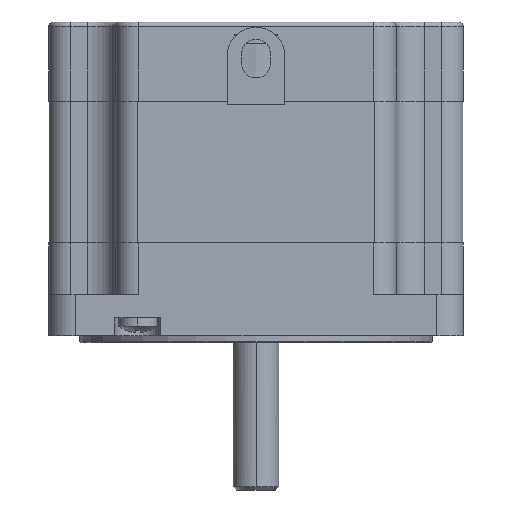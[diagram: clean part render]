
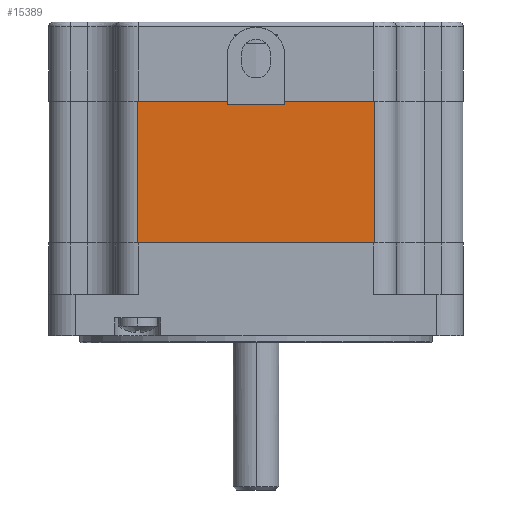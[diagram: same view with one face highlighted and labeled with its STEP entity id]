
A CAD part, left-side view. The second image highlights one B-rep face of the part: STEP entity #15389.
In plain terms, the highlighted planar face has unit normal (-1, 0, 0).
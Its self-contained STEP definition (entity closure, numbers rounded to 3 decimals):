
#2211 = EDGE_LOOP ( 'NONE', ( #13946, #36513, #8689, #46121 ) ) ;
#8689 = ORIENTED_EDGE ( 'NONE', *, *, #43303, .F. ) ;
#10192 = CARTESIAN_POINT ( 'NONE',  ( -42.87, -24.5, 0. ) ) ;
#12590 = VECTOR ( 'NONE', #21265, 1000. ) ;
#13946 = ORIENTED_EDGE ( 'NONE', *, *, #45383, .T. ) ;
#14179 = CARTESIAN_POINT ( 'NONE',  ( -42.87, -24.5, 29.4 ) ) ;
#15389 = ADVANCED_FACE ( 'NONE', ( #27893 ), #38272, .F. ) ;
#20032 = DIRECTION ( 'NONE',  ( 0., 0., -1. ) ) ;
#20315 = AXIS2_PLACEMENT_3D ( 'NONE', #33277, #28274, #23237 ) ;
#21265 = DIRECTION ( 'NONE',  ( 0., -1., 0. ) ) ;
#23237 = DIRECTION ( 'NONE',  ( 0., 0., -1. ) ) ;
#25028 = CARTESIAN_POINT ( 'NONE',  ( -42.87, 24.5, 29.4 ) ) ;
#26254 = CARTESIAN_POINT ( 'NONE',  ( -42.87, -24.5, 29.4 ) ) ;
#26407 = DIRECTION ( 'NONE',  ( 0., -1., 0. ) ) ;
#27893 = FACE_OUTER_BOUND ( 'NONE', #2211, .T. ) ;
#28274 = DIRECTION ( 'NONE',  ( 1., 0., 0. ) ) ;
#28714 = CARTESIAN_POINT ( 'NONE',  ( -42.87, 24.5, 29.4 ) ) ;
#29210 = VECTOR ( 'NONE', #20032, 1000. ) ;
#30048 = LINE ( 'NONE', #25028, #29210 ) ;
#30400 = CARTESIAN_POINT ( 'NONE',  ( -42.87, 24.5, 0. ) ) ;
#31114 = VECTOR ( 'NONE', #26407, 1000. ) ;
#31452 = CARTESIAN_POINT ( 'NONE',  ( -42.87, -24.5, 0. ) ) ;
#32140 = EDGE_CURVE ( 'NONE', #37849, #40791, #46311, .T. ) ;
#33113 = VERTEX_POINT ( 'NONE', #28714 ) ;
#33277 = CARTESIAN_POINT ( 'NONE',  ( -42.87, -24.5, 29.4 ) ) ;
#34939 = EDGE_CURVE ( 'NONE', #33113, #47308, #30048, .T. ) ;
#36297 = DIRECTION ( 'NONE',  ( 0., 0., -1. ) ) ;
#36299 = LINE ( 'NONE', #26254, #12590 ) ;
#36513 = ORIENTED_EDGE ( 'NONE', *, *, #32140, .F. ) ;
#37849 = VERTEX_POINT ( 'NONE', #14179 ) ;
#38272 = PLANE ( 'NONE',  #20315 ) ;
#39811 = VECTOR ( 'NONE', #36297, 1000. ) ;
#40791 = VERTEX_POINT ( 'NONE', #10192 ) ;
#41289 = CARTESIAN_POINT ( 'NONE',  ( -42.87, -24.5, 29.4 ) ) ;
#41437 = LINE ( 'NONE', #31452, #31114 ) ;
#43303 = EDGE_CURVE ( 'NONE', #33113, #37849, #36299, .T. ) ;
#45383 = EDGE_CURVE ( 'NONE', #47308, #40791, #41437, .T. ) ;
#46121 = ORIENTED_EDGE ( 'NONE', *, *, #34939, .T. ) ;
#46311 = LINE ( 'NONE', #41289, #39811 ) ;
#47308 = VERTEX_POINT ( 'NONE', #30400 ) ;
